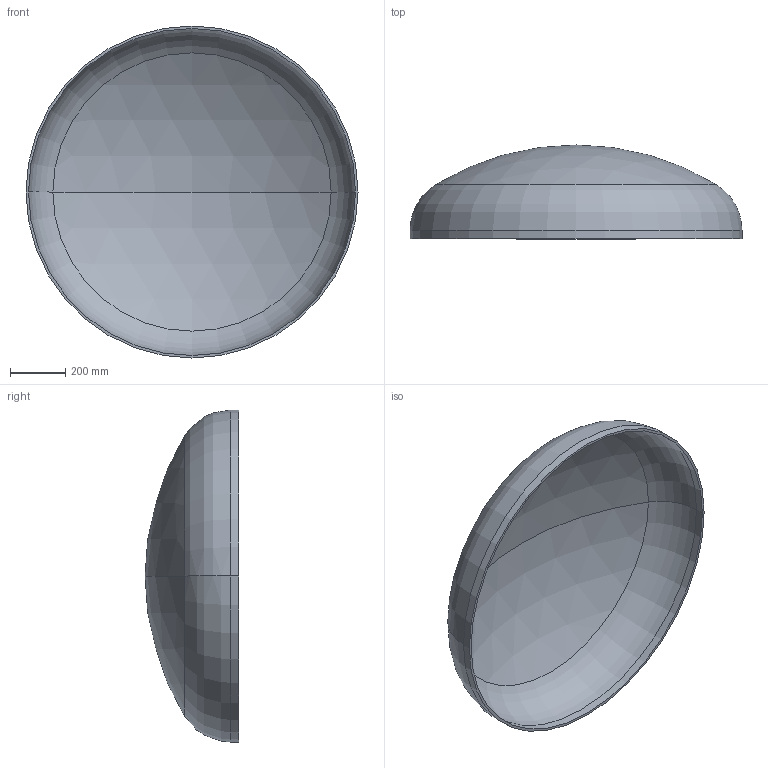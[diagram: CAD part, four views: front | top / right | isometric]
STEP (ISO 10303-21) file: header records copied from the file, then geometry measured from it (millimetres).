
FILE_DESCRIPTION (( 'STEP AP203' ), '1' );
FILE_NAME ('DIN 28013 Korbbogenform_-_Boden DIN 28013 - 1200 x 30 - I - s=9.step', '2016-07-01T09:20:17', ( '' ), ( '' ), 'SwSTEP 2.0', 'SolidWorks 2013', '' );
FILE_SCHEMA (( 'CONFIG_CONTROL_DESIGN' ));
Length unit declared in the file: millimetre
Products named in the file (1): DIN 28013 Korbbogenform_-_Boden DIN 28013 - 1200 x 30 - I - s=9
Bounding box: 1200 x 338.86 x 1200 mm (x, y, z)
Volume: 14971643.6 mm3; surface area: 3360875 mm2
Topology: 1 solids, 1 shells, 13 faces, 24 edges, 14 vertices
Faces by surface type: torus 4, cylinder 4, sphere 4, plane 1
Entity records: 407 total; most frequent: DIRECTION 72, CARTESIAN_POINT 52, ORIENTED_EDGE 48, AXIS2_PLACEMENT_3D 34, EDGE_CURVE 24, CIRCLE 20, VERTEX_POINT 14, EDGE_LOOP 14
